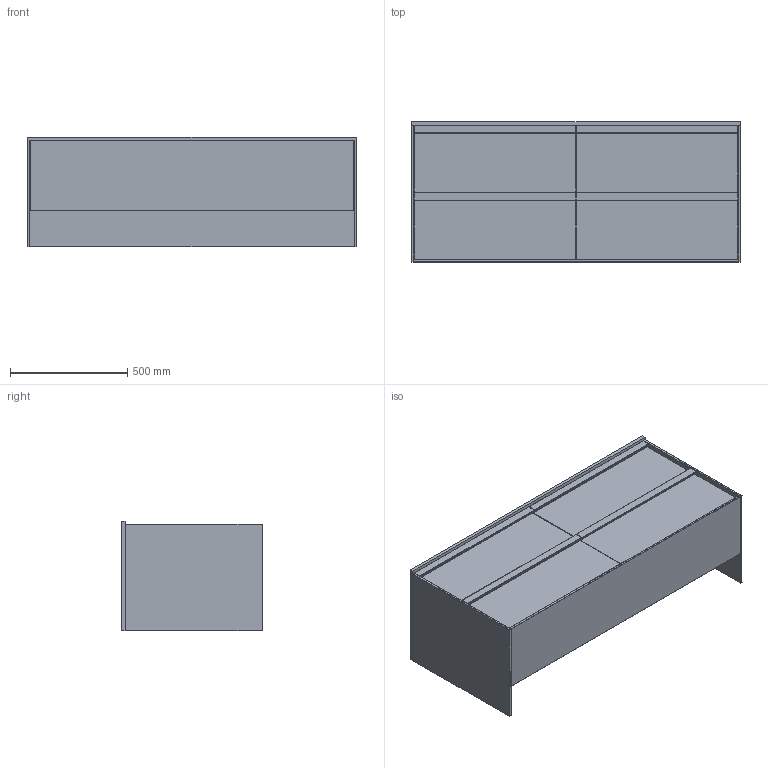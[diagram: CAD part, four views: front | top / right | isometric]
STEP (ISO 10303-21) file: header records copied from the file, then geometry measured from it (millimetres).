
FILE_DESCRIPTION (( 'STEP AP203' ), '1' );
FILE_NAME ('H2-Kommod-140-shell-drawing.STEP', '2024-10-23T06:55:26', ( '' ), ( '' ), 'SwSTEP 2.0', 'SolidWorks 2024', '' );
FILE_SCHEMA (( 'CONFIG_CONTROL_DESIGN' ));
Length unit declared in the file: millimetre
Products named in the file (6): lådfront-690x287x10; Stenskiva-1400x465x15; handtag-690x35x20; Botten-1380x300x10; H2-Kommod-140-shell-drawing; Sida-584x452x10
Assembly tree (12 placements, depth 2):
  H2-Kommod-140-shell-drawing
    Botten-1380x300x10
    handtag-690x35x20  x4
    lådfront-690x287x10  x4
    Sida-584x452x10  x2
    Stenskiva-1400x465x15
Bounding box: 1400 x 599 x 465 mm (x, y, z)
Volume: 28751743.6 mm3; surface area: 5246900.8 mm2
Topology: 12 solids, 12 shells, 292 faces, 632 edges, 276 vertices
Faces by surface type: cylinder 132, sphere 88, plane 72
Entity records: 3492 total; most frequent: DIRECTION 550, CARTESIAN_POINT 433, ORIENTED_EDGE 408, AXIS2_PLACEMENT_3D 221, EDGE_CURVE 204, FACE_OUTER_BOUND 110, ADVANCED_FACE 110, EDGE_LOOP 110
